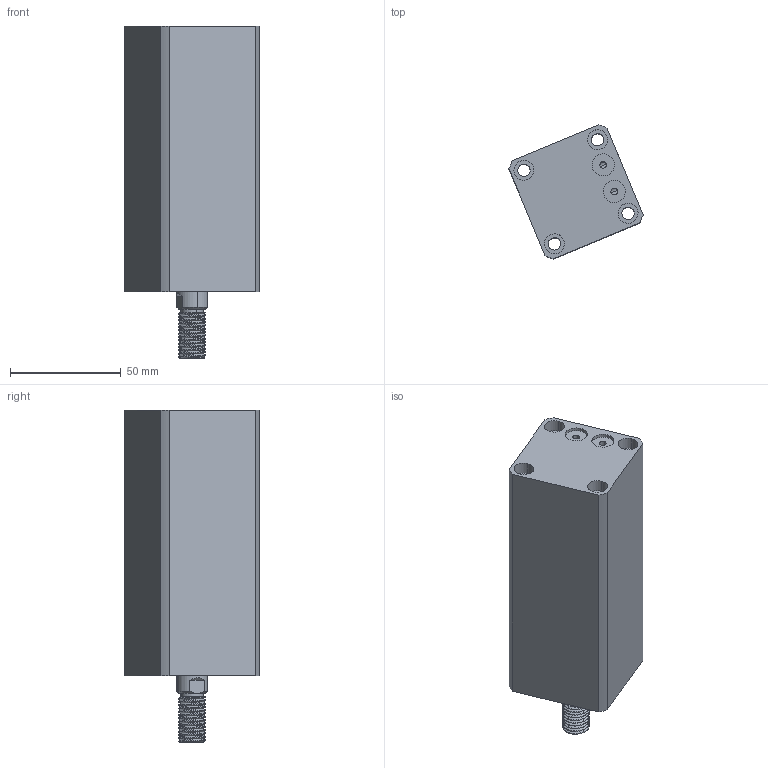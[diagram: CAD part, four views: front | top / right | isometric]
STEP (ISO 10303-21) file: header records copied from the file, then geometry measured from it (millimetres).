
FILE_DESCRIPTION (( 'STEP AP214' ), '1' );
FILE_NAME ('chtb-sdmb25x75w_asm.STEP', '2018-05-24T02:41:25', ( 'Windows' ), ( 'Microsoft' ), 'SwSTEP 2.0', 'SolidWorks 2015', '' );
FILE_SCHEMA (( 'AUTOMOTIVE_DESIGN' ));
Length unit declared in the file: millimetre
Products named in the file (4): CHTB-SDMB25X75WHSG; CHTB-SDMB25X75NBT; CHTB-25QG; chtb-sdmb25x75w_asm
Assembly tree (3 placements, depth 2):
  chtb-sdmb25x75w_asm
    CHTB-25QG
    CHTB-SDMB25X75NBT
    CHTB-SDMB25X75WHSG
Bounding box: 60.55 x 60.55 x 150 mm (x, y, z)
Volume: 237039.6 mm3; surface area: 59479 mm2
Topology: 3 solids, 3 shells, 176 faces, 476 edges, 323 vertices
Faces by surface type: cylinder 118, plane 37, bspline 12, cone 9
Entity records: 10721 total; most frequent: CARTESIAN_POINT 6406, ORIENTED_EDGE 944, DIRECTION 765, EDGE_CURVE 472, VERTEX_POINT 323, AXIS2_PLACEMENT_3D 310, EDGE_LOOP 215, ADVANCED_FACE 176
